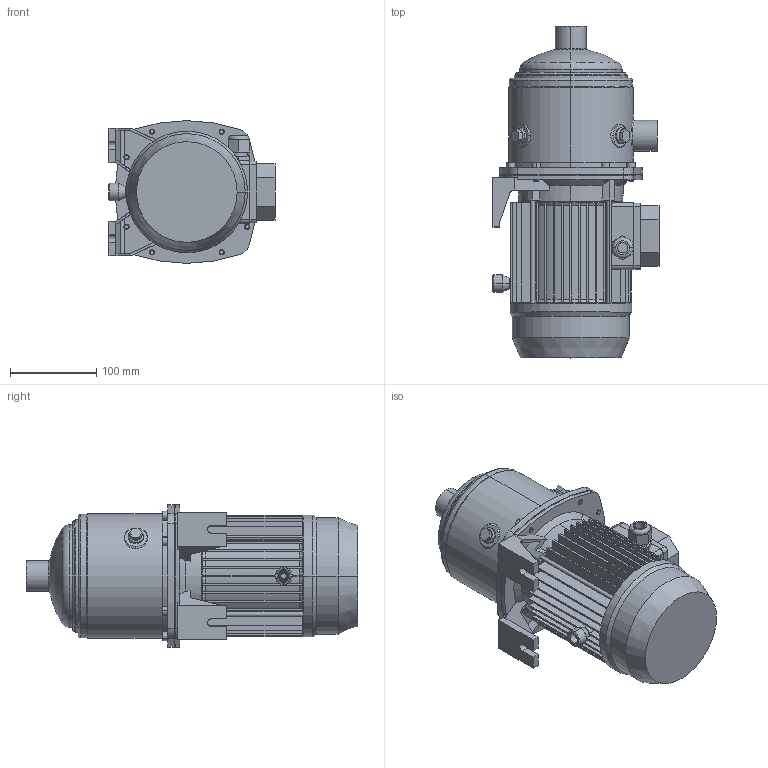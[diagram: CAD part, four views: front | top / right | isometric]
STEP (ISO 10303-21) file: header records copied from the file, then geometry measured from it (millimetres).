
FILE_DESCRIPTION((''),'2;1');
FILE_NAME('MATRIX_3-4T_0_65_ASM','2011-10-10T',('Utente'),('"Ebara Pumps Europe +39.444.706811"'),'PRO/ENGINEER BY PARAMETRIC TECHNOLOGY CORPORATION, 2009360','PRO/ENGINEER BY PARAMETRIC TECHNOLOGY CORPORATION, 2009360','');
FILE_SCHEMA(('AUTOMOTIVE_DESIGN { 1 0 10303 214 1 1 1 1 }'));
Length unit declared in the file: millimetre
Products named in the file (5): CORPO_POMPA_MATRIX_3-4; SUPPORTO_MATRIX_MEC_71; MEC_71; 72228; MATRIX_3-4T_0_65_ASM
Assembly tree (4 placements, depth 2):
  MATRIX_3-4T_0_65_ASM
    CORPO_POMPA_MATRIX_3-4
    SUPPORTO_MATRIX_MEC_71
    MEC_71
    72228
Bounding box: 192 x 383.8 x 165 mm (x, y, z)
Volume: 3987882.1 mm3; surface area: 470931 mm2
Topology: 4 solids, 4 shells, 677 faces, 1632 edges, 1010 vertices
Faces by surface type: plane 355, cylinder 184, cone 106, torus 28, sphere 2, bspline 2
Entity records: 26311 total; most frequent: CARTESIAN_POINT 4393, DIRECTION 3464, ORIENTED_EDGE 3264, EDGE_CURVE 1632, PRESENTATION_STYLE_ASSIGNMENT 1585, STYLED_ITEM 1585, CURVE_STYLE 1582, AXIS2_PLACEMENT_3D 1322
